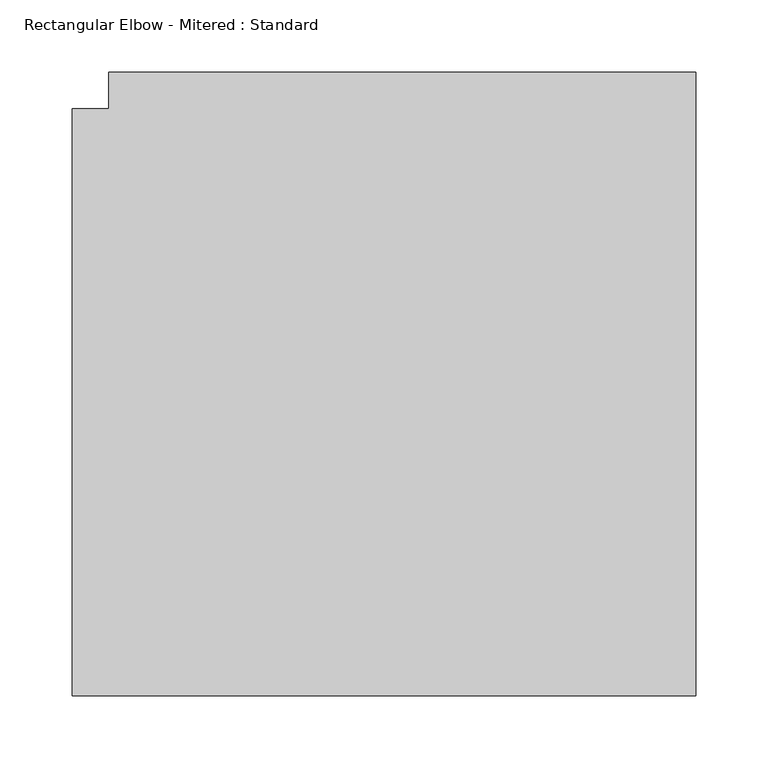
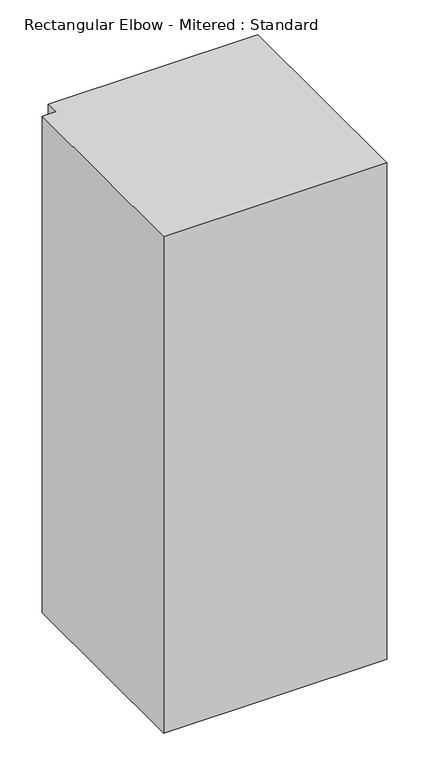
"""IFC4 building model written with IfcOpenShell, lengths in millimetres: duct fitting geometry, Rectangular Elbow - Mitered : Standard."""

from ifc_helpers import new_model, si_unit, frame, origin, place, context, project, spatial, polyline, outline, extrude, source, transform, mapped, element, save


def rectangular_elbow_mitered_standard_4791c952(model_context):
    return source(origin(), model_context, "Body", "SweptSolid", [
        extrude(outline(polyline([(-228.6, -203.2), (-228.6, 203.2), (-203.2, 203.2), (-203.2, 228.6), (203.2, 228.6), (203.2, -203.2), (-228.6, -203.2)])), frame((0.0, 0.0, -508.0), z_axis=(0.0, 0.0, 1.0), x_axis=(1.0, 0.0, 0.0)), (0.0, 0.0, 1.0), 1016.0),
    ])


if __name__ == "__main__":
    model = new_model("IFC4")
    model_context = context("Model", 3, world=origin())
    ifc_project = project(units=[si_unit("LENGTHUNIT", "METRE", prefix="MILLI")], contexts=[model_context])
    site = spatial("IfcSite", under=ifc_project)
    building = spatial("IfcBuilding", under=site)
    placement = place(None, origin())
    rectangular_elbow_mitered_standard_shape = rectangular_elbow_mitered_standard_4791c952(model_context)
    element("IfcDuctFitting", 1, ObjectType="Rectangular Elbow - Mitered : Standard", at=placement, inside=building, context=model_context, shape_type="MappedRepresentation", body=[
        mapped(rectangular_elbow_mitered_standard_shape, transform((0.0, 0.0, 0.0), x_axis=(1.0, 0.0, 0.0), y_axis=(0.0, 1.0, 0.0), z_axis=(0.0, 0.0, 1.0))),
    ])
    save(model, "model.ifc")
